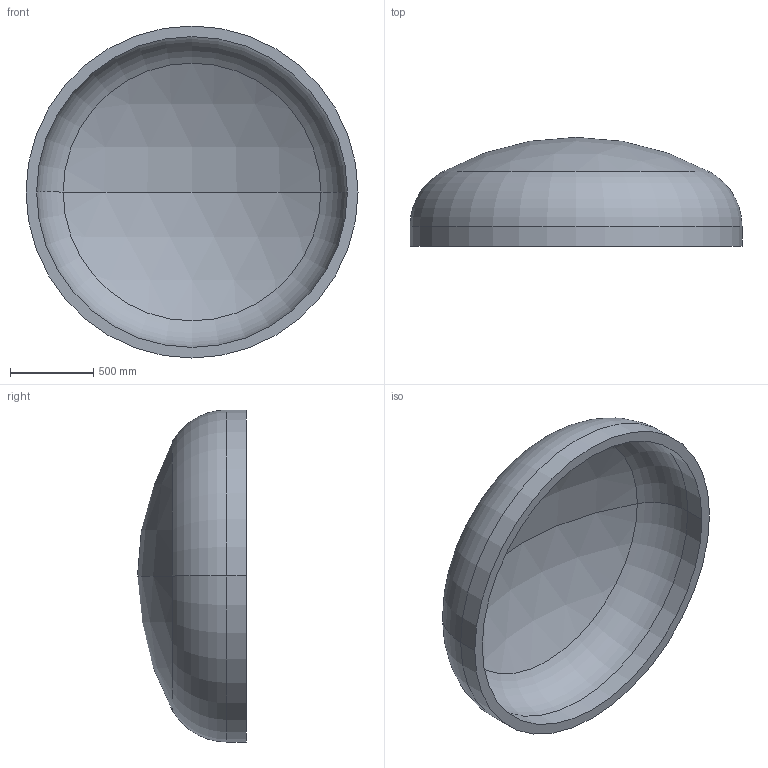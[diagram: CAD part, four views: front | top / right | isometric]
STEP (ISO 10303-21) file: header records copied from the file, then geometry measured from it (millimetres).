
FILE_DESCRIPTION (( 'STEP AP203' ), '1' );
FILE_NAME ('DIN 28013 Korbbogenform_-_Boden DIN 28013 - 2000 x 120 - I - s=64.step', '2016-07-01T14:00:35', ( '' ), ( '' ), 'SwSTEP 2.0', 'SolidWorks 2013', '' );
FILE_SCHEMA (( 'CONFIG_CONTROL_DESIGN' ));
Length unit declared in the file: millimetre
Products named in the file (1): DIN 28013 Korbbogenform_-_Boden DIN 28013 - 2000 x 120 - I - s=64
Bounding box: 2000 x 656.07 x 2000 mm (x, y, z)
Volume: 314144485.6 mm3; surface area: 10214846.8 mm2
Topology: 1 solids, 1 shells, 13 faces, 24 edges, 14 vertices
Faces by surface type: torus 4, cylinder 4, sphere 4, plane 1
Entity records: 407 total; most frequent: DIRECTION 72, CARTESIAN_POINT 52, ORIENTED_EDGE 48, AXIS2_PLACEMENT_3D 34, EDGE_CURVE 24, CIRCLE 20, VERTEX_POINT 14, EDGE_LOOP 14
